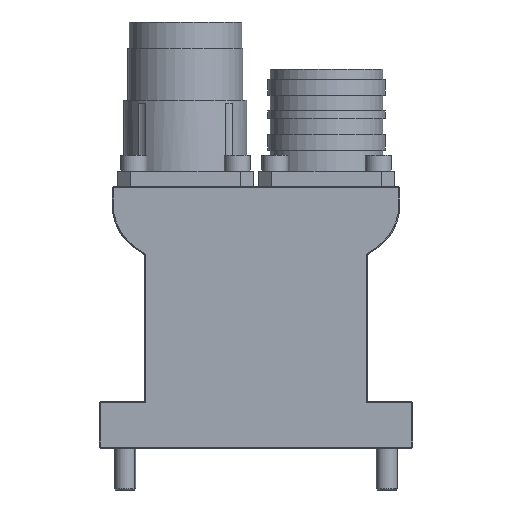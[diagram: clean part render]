
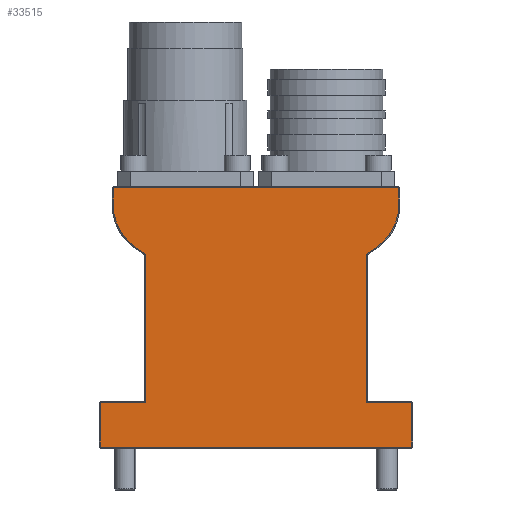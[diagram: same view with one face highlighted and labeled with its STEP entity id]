
A CAD part, front view. The second image highlights one B-rep face of the part: STEP entity #33515.
In plain terms, the highlighted planar face has unit normal (0, -1, 0).
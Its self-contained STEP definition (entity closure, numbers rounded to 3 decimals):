
#25 = EDGE_CURVE ( 'NONE', #7880, #21285, #33287, .T. ) ;
#65 = VECTOR ( 'NONE', #15183, 1000. ) ;
#200 = CARTESIAN_POINT ( 'NONE',  ( 17.5, -163., 46.473 ) ) ;
#208 = CARTESIAN_POINT ( 'NONE',  ( 22.783, -163., 38.218 ) ) ;
#223 = VERTEX_POINT ( 'NONE', #11909 ) ;
#480 = DIRECTION ( 'NONE',  ( 0., 1., 0. ) ) ;
#1063 = VECTOR ( 'NONE', #18786, 1000. ) ;
#1123 = AXIS2_PLACEMENT_3D ( 'NONE', #28502, #33627, #22818 ) ;
#2469 = EDGE_CURVE ( 'NONE', #6143, #21652, #26923, .T. ) ;
#2555 = ORIENTED_EDGE ( 'NONE', *, *, #6116, .T. ) ;
#2632 = DIRECTION ( 'NONE',  ( -1., 0., 0. ) ) ;
#2761 = CARTESIAN_POINT ( 'NONE',  ( -29.8, -163., 8.8 ) ) ;
#2844 = CARTESIAN_POINT ( 'NONE',  ( 30., -163., 0.2 ) ) ;
#2948 = PLANE ( 'NONE',  #20346 ) ;
#3060 = VERTEX_POINT ( 'NONE', #30648 ) ;
#3293 = CARTESIAN_POINT ( 'NONE',  ( -29.8, -163., 9. ) ) ;
#3365 = DIRECTION ( 'NONE',  ( -1., 0., 0. ) ) ;
#3458 = EDGE_CURVE ( 'NONE', #3060, #20333, #32128, .T. ) ;
#4613 = ORIENTED_EDGE ( 'NONE', *, *, #25034, .T. ) ;
#5011 = LINE ( 'NONE', #33067, #32631 ) ;
#5032 = EDGE_CURVE ( 'NONE', #21652, #28164, #9036, .T. ) ;
#5655 = CARTESIAN_POINT ( 'NONE',  ( 29.8, -163., 0.2 ) ) ;
#6116 = EDGE_CURVE ( 'NONE', #32687, #28809, #28642, .T. ) ;
#6143 = VERTEX_POINT ( 'NONE', #2761 ) ;
#6285 = EDGE_CURVE ( 'NONE', #30393, #6143, #11491, .T. ) ;
#6308 = CARTESIAN_POINT ( 'NONE',  ( -27.3, -163., 49.8 ) ) ;
#6408 = DIRECTION ( 'NONE',  ( 0., 0., -1. ) ) ;
#7684 = CARTESIAN_POINT ( 'NONE',  ( 27.3, -163., 49.8 ) ) ;
#7791 = CARTESIAN_POINT ( 'NONE',  ( -29.8, -163., 0.2 ) ) ;
#7880 = VERTEX_POINT ( 'NONE', #208 ) ;
#8130 = FACE_OUTER_BOUND ( 'NONE', #11430, .T. ) ;
#8408 = ORIENTED_EDGE ( 'NONE', *, *, #3458, .T. ) ;
#9036 = LINE ( 'NONE', #2844, #19071 ) ;
#9126 = CARTESIAN_POINT ( 'NONE',  ( 27.3, -163., 46.473 ) ) ;
#9138 = EDGE_CURVE ( 'NONE', #30037, #7880, #28468, .T. ) ;
#9341 = VECTOR ( 'NONE', #11213, 1000. ) ;
#9510 = ORIENTED_EDGE ( 'NONE', *, *, #2469, .T. ) ;
#10252 = CARTESIAN_POINT ( 'NONE',  ( -22.783, -163., 38.218 ) ) ;
#11194 = DIRECTION ( 'NONE',  ( 0., 0., -1. ) ) ;
#11213 = DIRECTION ( 'NONE',  ( 0., 0., 1. ) ) ;
#11430 = EDGE_LOOP ( 'NONE', ( #13677, #18355, #2555, #4613, #11907, #13089, #14721, #11459, #9510, #23956, #33770, #8408, #12270, #31102 ) ) ;
#11459 = ORIENTED_EDGE ( 'NONE', *, *, #6285, .T. ) ;
#11491 = LINE ( 'NONE', #19409, #26920 ) ;
#11903 = VECTOR ( 'NONE', #11194, 1000. ) ;
#11907 = ORIENTED_EDGE ( 'NONE', *, *, #17084, .T. ) ;
#11909 = CARTESIAN_POINT ( 'NONE',  ( -27.3, -163., 46.473 ) ) ;
#12270 = ORIENTED_EDGE ( 'NONE', *, *, #19781, .T. ) ;
#13089 = ORIENTED_EDGE ( 'NONE', *, *, #27235, .T. ) ;
#13677 = ORIENTED_EDGE ( 'NONE', *, *, #25, .T. ) ;
#13880 = EDGE_CURVE ( 'NONE', #19051, #30393, #27753, .T. ) ;
#13997 = DIRECTION ( 'NONE',  ( 0.842, 0., 0.539 ) ) ;
#14015 = CARTESIAN_POINT ( 'NONE',  ( -21.05, -163., 8.8 ) ) ;
#14091 = EDGE_CURVE ( 'NONE', #28164, #3060, #14336, .T. ) ;
#14241 = DIRECTION ( 'NONE',  ( 0., 0., 1. ) ) ;
#14336 = LINE ( 'NONE', #30104, #9341 ) ;
#14694 = VECTOR ( 'NONE', #31761, 1000. ) ;
#14714 = VECTOR ( 'NONE', #14241, 1000. ) ;
#14721 = ORIENTED_EDGE ( 'NONE', *, *, #13880, .T. ) ;
#15183 = DIRECTION ( 'NONE',  ( 0., 0., -1. ) ) ;
#15363 = CARTESIAN_POINT ( 'NONE',  ( 21.05, -163., 37.109 ) ) ;
#15528 = LINE ( 'NONE', #31427, #14694 ) ;
#15653 = VECTOR ( 'NONE', #21291, 1000. ) ;
#15745 = LINE ( 'NONE', #24530, #1063 ) ;
#16027 = AXIS2_PLACEMENT_3D ( 'NONE', #200, #32155, #32504 ) ;
#16908 = CARTESIAN_POINT ( 'NONE',  ( 27.3, -163., 49.8 ) ) ;
#17084 = EDGE_CURVE ( 'NONE', #223, #29576, #18547, .T. ) ;
#18355 = ORIENTED_EDGE ( 'NONE', *, *, #30409, .T. ) ;
#18547 = CIRCLE ( 'NONE', #1123, 9.8 ) ;
#18786 = DIRECTION ( 'NONE',  ( 0.842, 0., -0.539 ) ) ;
#19017 = CARTESIAN_POINT ( 'NONE',  ( 22.783, -163., 38.218 ) ) ;
#19051 = VERTEX_POINT ( 'NONE', #33918 ) ;
#19071 = VECTOR ( 'NONE', #29551, 1000. ) ;
#19409 = CARTESIAN_POINT ( 'NONE',  ( 30., -163., 8.8 ) ) ;
#19781 = EDGE_CURVE ( 'NONE', #20333, #30037, #15528, .T. ) ;
#20333 = VERTEX_POINT ( 'NONE', #21865 ) ;
#20346 = AXIS2_PLACEMENT_3D ( 'NONE', #24522, #480, #24415 ) ;
#21276 = CARTESIAN_POINT ( 'NONE',  ( 30., -163., 8.8 ) ) ;
#21285 = VERTEX_POINT ( 'NONE', #9126 ) ;
#21291 = DIRECTION ( 'NONE',  ( -1., 0., 0. ) ) ;
#21652 = VERTEX_POINT ( 'NONE', #7791 ) ;
#21836 = LINE ( 'NONE', #16908, #14714 ) ;
#21865 = CARTESIAN_POINT ( 'NONE',  ( 21.05, -163., 8.8 ) ) ;
#22818 = DIRECTION ( 'NONE',  ( 0., 0., -1. ) ) ;
#23956 = ORIENTED_EDGE ( 'NONE', *, *, #5032, .T. ) ;
#24112 = CARTESIAN_POINT ( 'NONE',  ( -27.5, -163., 49.8 ) ) ;
#24415 = DIRECTION ( 'NONE',  ( 0., 0., -1. ) ) ;
#24522 = CARTESIAN_POINT ( 'NONE',  ( 30., -163., 9. ) ) ;
#24530 = CARTESIAN_POINT ( 'NONE',  ( -21.142, -163., 37.168 ) ) ;
#25034 = EDGE_CURVE ( 'NONE', #28809, #223, #5011, .T. ) ;
#25589 = CARTESIAN_POINT ( 'NONE',  ( -21.05, -163., 9. ) ) ;
#26920 = VECTOR ( 'NONE', #3365, 1000. ) ;
#26923 = LINE ( 'NONE', #3293, #11903 ) ;
#27122 = VECTOR ( 'NONE', #2632, 1000. ) ;
#27235 = EDGE_CURVE ( 'NONE', #29576, #19051, #15745, .T. ) ;
#27753 = LINE ( 'NONE', #25589, #65 ) ;
#28164 = VERTEX_POINT ( 'NONE', #5655 ) ;
#28468 = LINE ( 'NONE', #19017, #31363 ) ;
#28502 = CARTESIAN_POINT ( 'NONE',  ( -17.5, -163., 46.473 ) ) ;
#28642 = LINE ( 'NONE', #24112, #15653 ) ;
#28809 = VERTEX_POINT ( 'NONE', #6308 ) ;
#29551 = DIRECTION ( 'NONE',  ( 1., 0., 0. ) ) ;
#29576 = VERTEX_POINT ( 'NONE', #10252 ) ;
#30037 = VERTEX_POINT ( 'NONE', #15363 ) ;
#30104 = CARTESIAN_POINT ( 'NONE',  ( 29.8, -163., 9. ) ) ;
#30393 = VERTEX_POINT ( 'NONE', #14015 ) ;
#30409 = EDGE_CURVE ( 'NONE', #21285, #32687, #21836, .T. ) ;
#30648 = CARTESIAN_POINT ( 'NONE',  ( 29.8, -163., 8.8 ) ) ;
#31102 = ORIENTED_EDGE ( 'NONE', *, *, #9138, .T. ) ;
#31363 = VECTOR ( 'NONE', #13997, 1000. ) ;
#31427 = CARTESIAN_POINT ( 'NONE',  ( 21.05, -163., 9. ) ) ;
#31761 = DIRECTION ( 'NONE',  ( 0., 0., 1. ) ) ;
#32128 = LINE ( 'NONE', #21276, #27122 ) ;
#32155 = DIRECTION ( 'NONE',  ( 0., -1., 0. ) ) ;
#32504 = DIRECTION ( 'NONE',  ( 0., 0., -1. ) ) ;
#32631 = VECTOR ( 'NONE', #6408, 1000. ) ;
#32687 = VERTEX_POINT ( 'NONE', #7684 ) ;
#33067 = CARTESIAN_POINT ( 'NONE',  ( -27.3, -163., 46.473 ) ) ;
#33287 = CIRCLE ( 'NONE', #16027, 9.8 ) ;
#33515 = ADVANCED_FACE ( 'NONE', ( #8130 ), #2948, .F. ) ;
#33627 = DIRECTION ( 'NONE',  ( 0., -1., 0. ) ) ;
#33770 = ORIENTED_EDGE ( 'NONE', *, *, #14091, .T. ) ;
#33918 = CARTESIAN_POINT ( 'NONE',  ( -21.05, -163., 37.109 ) ) ;
